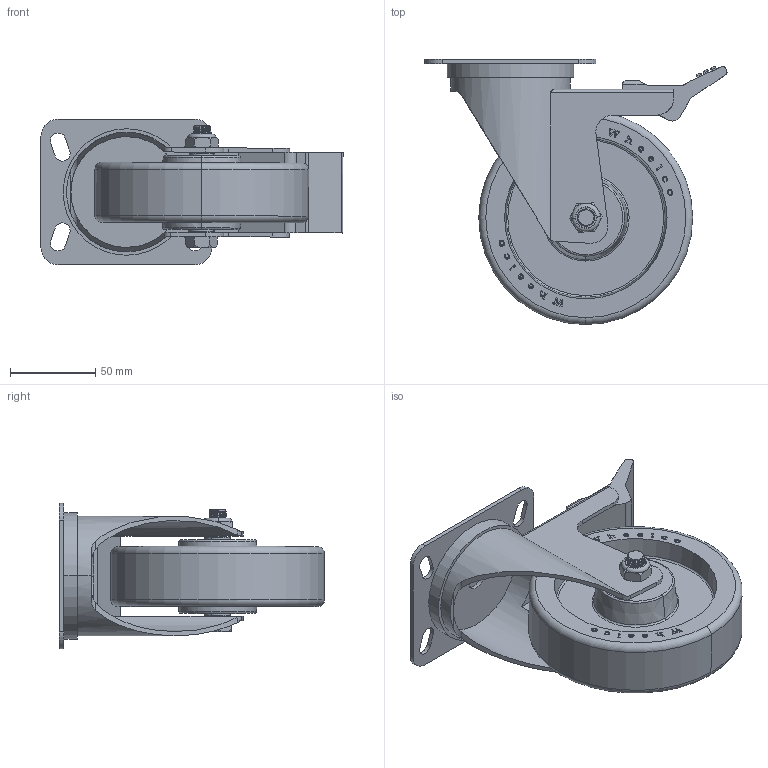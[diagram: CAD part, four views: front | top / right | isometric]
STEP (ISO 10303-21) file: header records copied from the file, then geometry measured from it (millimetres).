
FILE_DESCRIPTION (( 'STEP AP214' ), '1' );
FILE_NAME ('MDU125-P-TB.step', '2024-01-21T22:17:18', ( '' ), ( '' ), 'SwSTEP 2.0', 'SolidWorks 2022', '' );
FILE_SCHEMA (( 'AUTOMOTIVE_DESIGN' ));
Length unit declared in the file: millimetre
Products named in the file (7): M10-Nyloc; MS125-SP-TB; M10X65; MCU125; MDU125-P-TB; SP15-10-47; 100X85 ANGLED
Assembly tree (6 placements, depth 2):
  MDU125-P-TB
    100X85 ANGLED
    M10X65
    M10-Nyloc
    SP15-10-47
    MS125-SP-TB
    MCU125
Bounding box: 176.65 x 155 x 85 mm (x, y, z)
Volume: 430722.3 mm3; surface area: 125616.6 mm2
Topology: 7 solids, 7 shells, 945 faces, 2543 edges, 1680 vertices
Faces by surface type: plane 470, bspline 251, cylinder 173, cone 29, torus 22
Entity records: 50436 total; most frequent: CARTESIAN_POINT 26543, ORIENTED_EDGE 5086, DIRECTION 3500, EDGE_CURVE 2543, VERTEX_POINT 1680, LINE 1558, VECTOR 1558, EDGE_LOOP 1033
